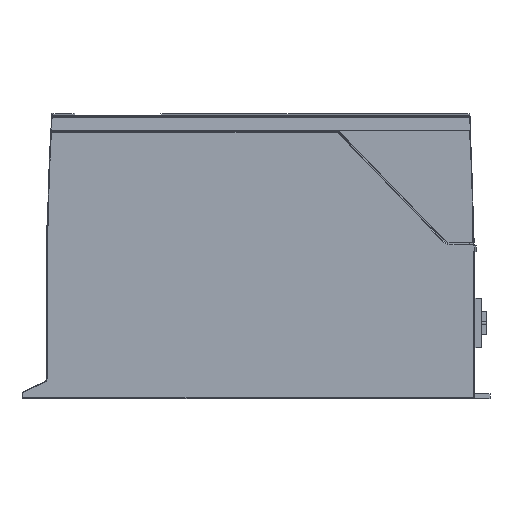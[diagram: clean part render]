
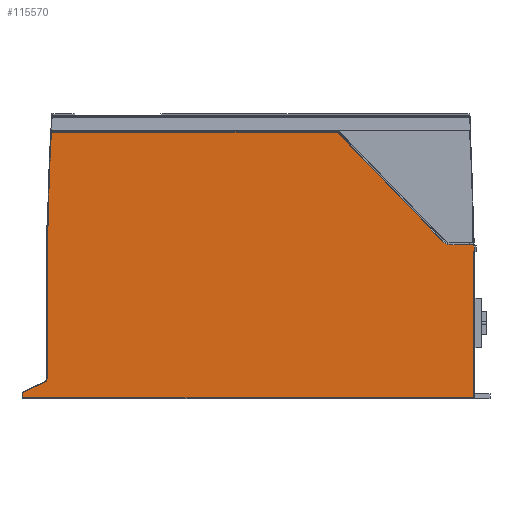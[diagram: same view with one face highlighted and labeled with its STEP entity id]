
A CAD part, left-side view. The second image highlights one B-rep face of the part: STEP entity #115570.
In plain terms, the highlighted planar face has unit normal (-1, 0, 0).
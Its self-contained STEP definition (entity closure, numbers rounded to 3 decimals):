
#110543=DIRECTION('',(0.,-1.,0.));
#110544=VECTOR('',#110543,458.676);
#110545=CARTESIAN_POINT('',(-51.,36.838,
-242.838));
#110546=LINE('',#110545,#110544);
#111490=DIRECTION('',(0.,1.,0.));
#111491=VECTOR('',#111490,23.078);
#111492=CARTESIAN_POINT('',(-51.,-421.843,-87.016));
#111493=LINE('',#111492,#111491);
#111528=DIRECTION('',(0.,0.,1.));
#111529=VECTOR('',#111528,1.271);
#111530=CARTESIAN_POINT('',(-51.,-421.843,-88.287));
#111531=LINE('',#111530,#111529);
#111609=DIRECTION('',(0.,0.,1.));
#111610=VECTOR('',#111609,5.825);
#111611=CARTESIAN_POINT('',(-51.,-422.613,-94.113));
#111612=LINE('',#111611,#111610);
#111904=DIRECTION('',(0.,0.,1.));
#111905=VECTOR('',#111904,148.725);
#111906=CARTESIAN_POINT('',(-51.,-421.838,
-242.838));
#111907=LINE('',#111906,#111905);
#111911=DIRECTION('',(0.,1.,0.));
#111912=VECTOR('',#111911,0.771);
#111913=CARTESIAN_POINT('',(-51.,-422.613,-94.113));
#111914=LINE('',#111913,#111912);
#111918=DIRECTION('',(0.,-0.906,0.423));
#111919=VECTOR('',#111918,23.977);
#111920=CARTESIAN_POINT('',(-51.,36.838,
-237.522));
#111921=LINE('',#111920,#111919);
#111925=CARTESIAN_POINT('',(-51.,17.5,-222.257));
#111926=DIRECTION('',(-1.,0.,0.));
#111927=DIRECTION('',(0.,-0.423,-0.906));
#111928=AXIS2_PLACEMENT_3D('',#111925,#111926,#111927);
#111933=DIRECTION('',(0.,-0.707,0.707));
#111934=VECTOR('',#111933,1.003);
#111935=CARTESIAN_POINT('',(-51.,11.843,-68.272));
#111936=LINE('',#111935,#111934);
#111940=CARTESIAN_POINT('',(-51.,-2188.322,-95.));
#111941=DIRECTION('',(1.,0.,0.));
#111942=DIRECTION('',(0.,1.,0.013));
#111943=AXIS2_PLACEMENT_3D('',#111940,#111941,#111942);
#111948=DIRECTION('',(0.,-0.695,-0.719));
#111949=VECTOR('',#111948,153.876);
#111950=CARTESIAN_POINT('',(-51.,-283.23,27.343));
#111951=LINE('',#111950,#111949);
#111955=CARTESIAN_POINT('',(-51.,-398.765,-75.));
#111956=DIRECTION('',(-1.,0.,0.));
#111957=DIRECTION('',(0.,0.719,-0.695));
#111958=AXIS2_PLACEMENT_3D('',#111955,#111956,#111957);
#111963=DIRECTION('',(0.,-1.,0.));
#111964=VECTOR('',#111963,0.771);
#111965=CARTESIAN_POINT('',(-51.,-421.843,-88.287));
#111966=LINE('',#111965,#111964);
#111977=DIRECTION('',(0.,0.,-1.));
#111978=VECTOR('',#111977,5.317);
#111979=CARTESIAN_POINT('',(-51.,36.838,
-237.522));
#111980=LINE('',#111979,#111978);
#112141=DIRECTION('',(0.,0.,-1.));
#112142=VECTOR('',#112141,153.985);
#112143=CARTESIAN_POINT('',(-51.,11.843,-68.272));
#112144=LINE('',#112143,#112142);
#112187=CARTESIAN_POINT('',(-51.,10.841,
-66.869));
#112188=CARTESIAN_POINT('',(-51.,10.842,
-66.957));
#112189=CARTESIAN_POINT('',(-51.,10.866,
-67.125));
#112190=CARTESIAN_POINT('',(-51.,10.968,
-67.366));
#112191=CARTESIAN_POINT('',(-51.,11.071,
-67.501));
#112192=CARTESIAN_POINT('',(-51.,11.133,
-67.563));
#112346=DIRECTION('',(0.,1.,0.));
#112347=VECTOR('',#112346,290.845);
#112348=CARTESIAN_POINT('',(-51.,-283.23,27.343));
#112349=LINE('',#112348,#112347);
#113216=CARTESIAN_POINT('',(-51.,-422.613,-94.113));
#113217=CARTESIAN_POINT('',(-51.,-422.613,-88.287));
#113218=VERTEX_POINT('',#113216);
#113219=VERTEX_POINT('',#113217);
#113220=CARTESIAN_POINT('',(-51.,-421.843,-94.113));
#113221=VERTEX_POINT('',#113220);
#113222=CARTESIAN_POINT('',(-51.,-421.838,
-242.838));
#113223=VERTEX_POINT('',#113222);
#113224=CARTESIAN_POINT('',(-51.,36.838,
-242.838));
#113225=VERTEX_POINT('',#113224);
#113226=CARTESIAN_POINT('',(-51.,36.838,
-237.522));
#113227=VERTEX_POINT('',#113226);
#113228=CARTESIAN_POINT('',(-51.,15.109,-227.384));
#113229=VERTEX_POINT('',#113228);
#113230=CARTESIAN_POINT('',(-51.,11.843,-222.257));
#113231=VERTEX_POINT('',#113230);
#113232=CARTESIAN_POINT('',(-51.,11.843,-68.272));
#113233=VERTEX_POINT('',#113232);
#113234=CARTESIAN_POINT('',(-51.,11.133,
-67.563));
#113235=VERTEX_POINT('',#113234);
#113236=VERTEX_POINT('',#112187);
#113237=CARTESIAN_POINT('',(-51.,7.615,27.343));
#113238=VERTEX_POINT('',#113237);
#113239=CARTESIAN_POINT('',(-51.,-283.23,27.343));
#113240=VERTEX_POINT('',#113239);
#113241=CARTESIAN_POINT('',(-51.,-390.121,-83.347));
#113242=VERTEX_POINT('',#113241);
#113243=CARTESIAN_POINT('',(-51.,-398.765,-87.016));
#113244=VERTEX_POINT('',#113243);
#113245=CARTESIAN_POINT('',(-51.,-421.843,-87.016));
#113246=VERTEX_POINT('',#113245);
#113247=CARTESIAN_POINT('',(-51.,-421.843,-88.287));
#113248=VERTEX_POINT('',#113247);
#115538=CARTESIAN_POINT('',(-51.,12.5,-242.));
#115539=DIRECTION('',(-1.,0.,0.));
#115540=DIRECTION('',(0.,0.,1.));
#115541=AXIS2_PLACEMENT_3D('',#115538,#115539,#115540);
#115542=PLANE('',#115541);
#115543=ORIENTED_EDGE('',*,*,#115307,.F.);
#115544=ORIENTED_EDGE('',*,*,#115328,.T.);
#115545=ORIENTED_EDGE('',*,*,#115532,.F.);
#115546=ORIENTED_EDGE('',*,*,#114486,.F.);
#115548=ORIENTED_EDGE('',*,*,#115547,.F.);
#115550=ORIENTED_EDGE('',*,*,#115549,.T.);
#115552=ORIENTED_EDGE('',*,*,#115551,.T.);
#115554=ORIENTED_EDGE('',*,*,#115553,.F.);
#115556=ORIENTED_EDGE('',*,*,#115555,.T.);
#115558=ORIENTED_EDGE('',*,*,#115557,.F.);
#115560=ORIENTED_EDGE('',*,*,#115559,.T.);
#115562=ORIENTED_EDGE('',*,*,#115561,.F.);
#115563=ORIENTED_EDGE('',*,*,#115156,.T.);
#115564=ORIENTED_EDGE('',*,*,#115172,.T.);
#115565=ORIENTED_EDGE('',*,*,#115213,.F.);
#115566=ORIENTED_EDGE('',*,*,#115241,.F.);
#115567=ORIENTED_EDGE('',*,*,#115280,.T.);
#115568=EDGE_LOOP('',(#115543,#115544,#115545,#115546,#115548,#115550,#115552,
#115554,#115556,#115558,#115560,#115562,#115563,#115564,#115565,#115566,
#115567));
#115569=FACE_OUTER_BOUND('',#115568,.F.);
#115570=ADVANCED_FACE('',(#115569),#115542,.T.);
#111929=CIRCLE('',#111928,5.657);
#111944=CIRCLE('',#111943,2199.343);
#111959=CIRCLE('',#111958,12.016);
#112193=B_SPLINE_CURVE_WITH_KNOTS('',3,(#112187,#112188,#112189,#112190,#112191,
#112192),.UNSPECIFIED.,.F.,.F.,(4,1,1,4),(0.,0.333,
0.667,1.),.UNSPECIFIED.);
#114486=EDGE_CURVE('',#113225,#113223,#110546,.T.);
#115156=EDGE_CURVE('',#113240,#113242,#111951,.T.);
#115172=EDGE_CURVE('',#113242,#113244,#111959,.T.);
#115213=EDGE_CURVE('',#113246,#113244,#111493,.T.);
#115241=EDGE_CURVE('',#113248,#113246,#111531,.T.);
#115280=EDGE_CURVE('',#113248,#113219,#111966,.T.);
#115307=EDGE_CURVE('',#113218,#113219,#111612,.T.);
#115328=EDGE_CURVE('',#113218,#113221,#111914,.T.);
#115532=EDGE_CURVE('',#113223,#113221,#111907,.T.);
#115547=EDGE_CURVE('',#113227,#113225,#111980,.T.);
#115549=EDGE_CURVE('',#113227,#113229,#111921,.T.);
#115551=EDGE_CURVE('',#113229,#113231,#111929,.T.);
#115553=EDGE_CURVE('',#113233,#113231,#112144,.T.);
#115555=EDGE_CURVE('',#113233,#113235,#111936,.T.);
#115557=EDGE_CURVE('',#113236,#113235,#112193,.T.);
#115559=EDGE_CURVE('',#113236,#113238,#111944,.T.);
#115561=EDGE_CURVE('',#113240,#113238,#112349,.T.);
